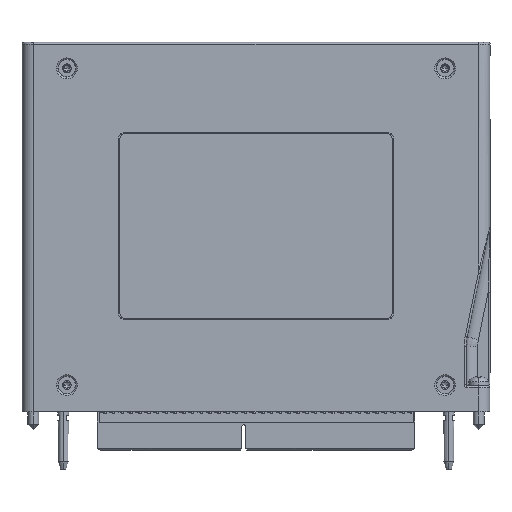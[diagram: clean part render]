
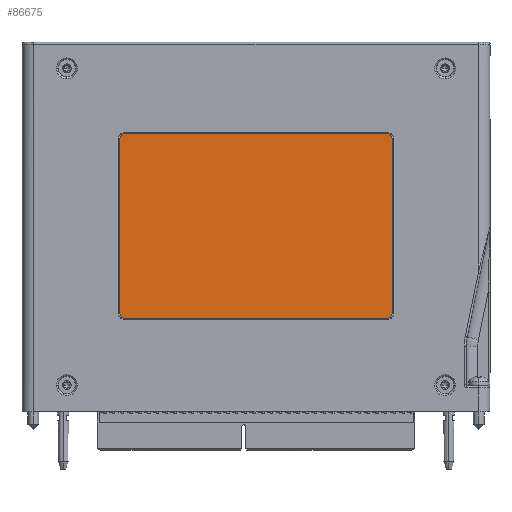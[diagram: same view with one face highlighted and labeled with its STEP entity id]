
A CAD part, left-side view. The second image highlights one B-rep face of the part: STEP entity #86675.
In plain terms, the highlighted planar face has unit normal (-1, 0, 0).
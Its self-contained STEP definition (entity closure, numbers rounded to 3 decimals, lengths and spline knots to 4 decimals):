
#23517=CARTESIAN_POINT('',(-0.16,1.413,2.943));
#23518=DIRECTION('',(-1.,0.,0.));
#23519=DIRECTION('',(0.,0.,1.));
#23520=AXIS2_PLACEMENT_3D('',#23517,#23518,#23519);
#23522=DIRECTION('',(0.,1.,0.));
#23523=VECTOR('',#23522,2.826);
#23524=CARTESIAN_POINT('',(-0.16,-1.413,3.005));
#23525=LINE('',#23524,#23523);
#23526=CARTESIAN_POINT('',(-0.16,-1.413,2.943));
#23527=DIRECTION('',(-1.,0.,0.));
#23528=DIRECTION('',(0.,-1.,0.));
#23529=AXIS2_PLACEMENT_3D('',#23526,#23527,#23528);
#23531=DIRECTION('',(0.,0.,1.));
#23532=VECTOR('',#23531,1.876);
#23533=CARTESIAN_POINT('',(-0.16,-1.475,1.067));
#23534=LINE('',#23533,#23532);
#23535=CARTESIAN_POINT('',(-0.16,-1.413,1.067));
#23536=DIRECTION('',(-1.,0.,0.));
#23537=DIRECTION('',(0.,0.,-1.));
#23538=AXIS2_PLACEMENT_3D('',#23535,#23536,#23537);
#23540=DIRECTION('',(0.,-1.,0.));
#23541=VECTOR('',#23540,2.826);
#23542=CARTESIAN_POINT('',(-0.16,1.413,1.005));
#23543=LINE('',#23542,#23541);
#23544=CARTESIAN_POINT('',(-0.16,1.413,1.067));
#23545=DIRECTION('',(-1.,0.,0.));
#23546=DIRECTION('',(0.,1.,0.));
#23547=AXIS2_PLACEMENT_3D('',#23544,#23545,#23546);
#23549=DIRECTION('',(0.,0.,-1.));
#23550=VECTOR('',#23549,1.876);
#23551=CARTESIAN_POINT('',(-0.16,1.475,2.943));
#23552=LINE('',#23551,#23550);
#57006=CARTESIAN_POINT('',(-0.16,1.413,3.005));
#57007=CARTESIAN_POINT('',(-0.16,1.475,2.943));
#57008=VERTEX_POINT('',#57006);
#57009=VERTEX_POINT('',#57007);
#57010=CARTESIAN_POINT('',(-0.16,-1.475,2.943));
#57011=CARTESIAN_POINT('',(-0.16,-1.413,3.005));
#57012=VERTEX_POINT('',#57010);
#57013=VERTEX_POINT('',#57011);
#57014=CARTESIAN_POINT('',(-0.16,-1.413,1.005));
#57015=CARTESIAN_POINT('',(-0.16,-1.475,1.067));
#57016=VERTEX_POINT('',#57014);
#57017=VERTEX_POINT('',#57015);
#57018=CARTESIAN_POINT('',(-0.16,1.475,1.067));
#57019=CARTESIAN_POINT('',(-0.16,1.413,1.005));
#57020=VERTEX_POINT('',#57018);
#57021=VERTEX_POINT('',#57019);
#86660=CARTESIAN_POINT('',(-0.16,-1.475,1.005));
#86661=DIRECTION('',(-1.,0.,0.));
#86662=DIRECTION('',(0.,0.,1.));
#86663=AXIS2_PLACEMENT_3D('',#86660,#86661,#86662);
#86664=PLANE('',#86663);
#86665=ORIENTED_EDGE('',*,*,#86627,.F.);
#86666=ORIENTED_EDGE('',*,*,#86641,.F.);
#86667=ORIENTED_EDGE('',*,*,#86654,.F.);
#86668=ORIENTED_EDGE('',*,*,#86556,.F.);
#86669=ORIENTED_EDGE('',*,*,#86571,.F.);
#86670=ORIENTED_EDGE('',*,*,#86585,.F.);
#86671=ORIENTED_EDGE('',*,*,#86599,.F.);
#86672=ORIENTED_EDGE('',*,*,#86613,.F.);
#86673=EDGE_LOOP('',(#86665,#86666,#86667,#86668,#86669,#86670,#86671,#86672));
#86674=FACE_OUTER_BOUND('',#86673,.F.);
#86675=ADVANCED_FACE('',(#86674),#86664,.T.);
#23521=CIRCLE('',#23520,0.062);
#23530=CIRCLE('',#23529,0.062);
#23539=CIRCLE('',#23538,0.062);
#23548=CIRCLE('',#23547,0.062);
#86556=EDGE_CURVE('',#57017,#57012,#23534,.T.);
#86571=EDGE_CURVE('',#57016,#57017,#23539,.T.);
#86585=EDGE_CURVE('',#57021,#57016,#23543,.T.);
#86599=EDGE_CURVE('',#57020,#57021,#23548,.T.);
#86613=EDGE_CURVE('',#57009,#57020,#23552,.T.);
#86627=EDGE_CURVE('',#57008,#57009,#23521,.T.);
#86641=EDGE_CURVE('',#57013,#57008,#23525,.T.);
#86654=EDGE_CURVE('',#57012,#57013,#23530,.T.);
